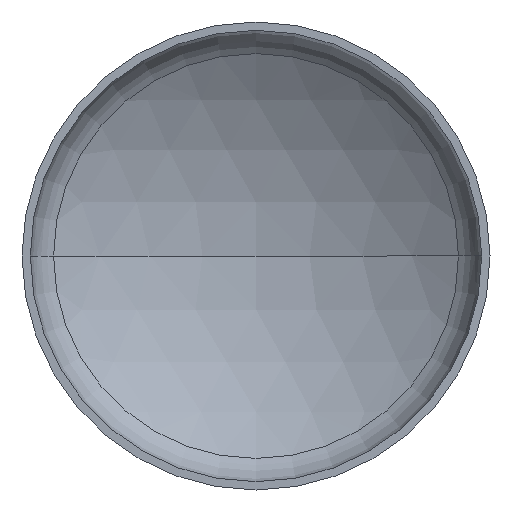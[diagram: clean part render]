
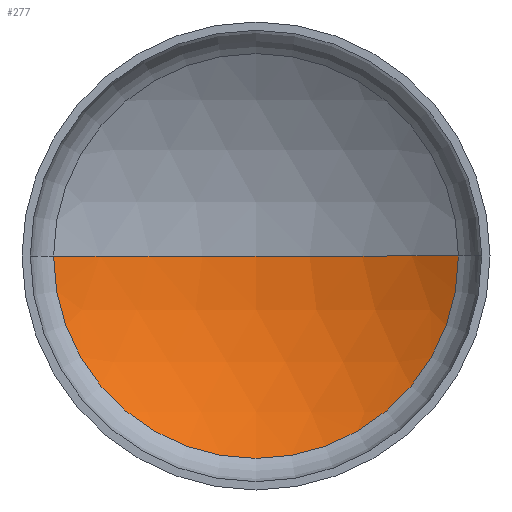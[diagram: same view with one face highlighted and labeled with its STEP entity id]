
A CAD part, front view. The second image highlights one B-rep face of the part: STEP entity #277.
In plain terms, the highlighted spherical face has radius 128.64 mm.
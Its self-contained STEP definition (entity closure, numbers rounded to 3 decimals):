
#9 = SPHERICAL_SURFACE ( 'NONE', #228, 128.64 ) ;
#10 = CARTESIAN_POINT ( 'NONE',  ( -72.795, 18.922, 0. ) ) ;
#13 = VERTEX_POINT ( 'NONE', #10 ) ;
#20 = CIRCLE ( 'NONE', #152, 128.64 ) ;
#23 = DIRECTION ( 'NONE',  ( 0., 0., 1. ) ) ;
#25 = VERTEX_POINT ( 'NONE', #383 ) ;
#28 = DIRECTION ( 'NONE',  ( 1., 0., 0. ) ) ;
#39 = DIRECTION ( 'NONE',  ( 0., 1., 0. ) ) ;
#41 = EDGE_CURVE ( 'NONE', #13, #25, #95, .T. ) ;
#95 = CIRCLE ( 'NONE', #219, 128.64 ) ;
#107 = AXIS2_PLACEMENT_3D ( 'NONE', #268, #39, #300 ) ;
#108 = ORIENTED_EDGE ( 'NONE', *, *, #231, .F. ) ;
#127 = ORIENTED_EDGE ( 'NONE', *, *, #41, .F. ) ;
#137 = CARTESIAN_POINT ( 'NONE',  ( 0., -87.14, 0. ) ) ;
#141 = DIRECTION ( 'NONE',  ( 0., 0., -1. ) ) ;
#152 = AXIS2_PLACEMENT_3D ( 'NONE', #372, #23, #28 ) ;
#164 = EDGE_CURVE ( 'NONE', #223, #25, #20, .T. ) ;
#203 = CARTESIAN_POINT ( 'NONE',  ( 0., -87.14, 0. ) ) ;
#213 = DIRECTION ( 'NONE',  ( -1., 0., 0. ) ) ;
#216 = FACE_OUTER_BOUND ( 'NONE', #278, .T. ) ;
#219 = AXIS2_PLACEMENT_3D ( 'NONE', #203, #141, #213 ) ;
#223 = VERTEX_POINT ( 'NONE', #327 ) ;
#228 = AXIS2_PLACEMENT_3D ( 'NONE', #137, #389, #244 ) ;
#231 = EDGE_CURVE ( 'NONE', #223, #13, #333, .T. ) ;
#244 = DIRECTION ( 'NONE',  ( -1., 0., 0. ) ) ;
#261 = ORIENTED_EDGE ( 'NONE', *, *, #164, .T. ) ;
#268 = CARTESIAN_POINT ( 'NONE',  ( 0., 18.922, 0. ) ) ;
#277 = ADVANCED_FACE ( 'NONE', ( #216 ), #9, .F. ) ;
#278 = EDGE_LOOP ( 'NONE', ( #108, #261, #127 ) ) ;
#300 = DIRECTION ( 'NONE',  ( -1., 0., 0. ) ) ;
#327 = CARTESIAN_POINT ( 'NONE',  ( 72.795, 18.922, 0. ) ) ;
#333 = CIRCLE ( 'NONE', #107, 72.795 ) ;
#372 = CARTESIAN_POINT ( 'NONE',  ( 0., -87.14, 0. ) ) ;
#383 = CARTESIAN_POINT ( 'NONE',  ( 0., 41.5, 0. ) ) ;
#389 = DIRECTION ( 'NONE',  ( 0., 0., 1. ) ) ;
